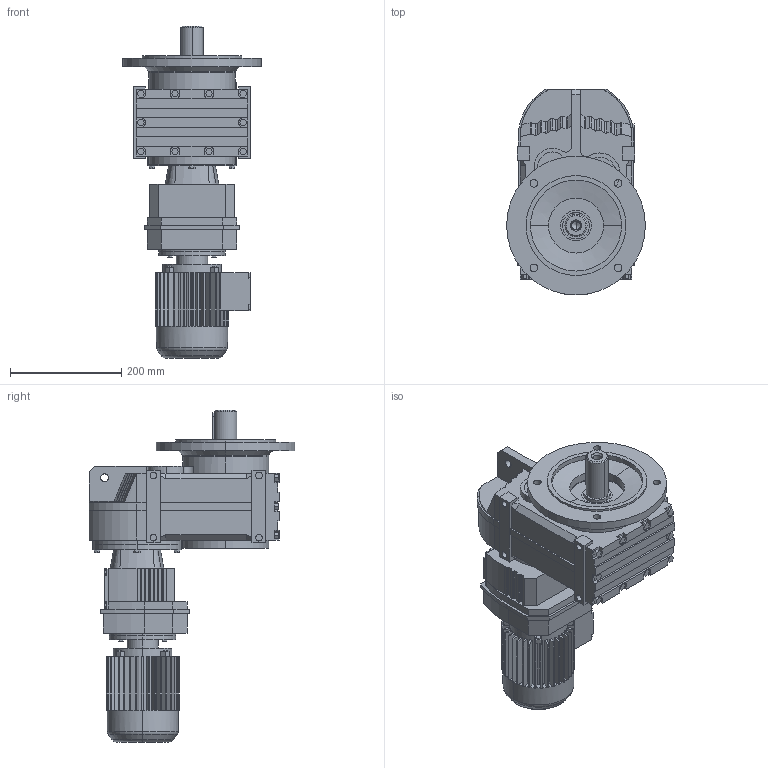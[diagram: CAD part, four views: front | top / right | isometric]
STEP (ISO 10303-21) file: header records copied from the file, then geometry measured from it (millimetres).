
FILE_DESCRIPTION(('Open CASCADE Model'),'2;1');
FILE_NAME('Open CASCADE Shape Model','2021-07-24T11:11:49',('Author'),( 'Open CASCADE'),'Open CASCADE STEP processor 6.3','Open CASCADE 6.3' ,'Unknown');
FILE_SCHEMA(('AUTOMOTIVE_DESIGN_CC2 { 1 2 10303 214 -1 1 5 4 }'));
Length unit declared in the file: millimetre
Products named in the file (6): 1_FF67R37DR63; FAZ27‵157_67.step; 萇儂_120-DR63-191-246-132-105.step; R_67_37.step; す瑩妗陑粣F_67.step; 楊擘F_67.step
Assembly tree (5 placements, depth 2):
  1_FF67R37DR63
    FAZ27‵157_67.step
    萇儂_120-DR63-191-246-132-105.step
    R_67_37.step
    す瑩妗陑粣F_67.step
    楊擘F_67.step
Bounding box: 250 x 371 x 598 mm (x, y, z)
Volume: 14507148.4 mm3; surface area: 857038 mm2
Topology: 5 solids, 5 shells, 1040 faces, 2744 edges, 1792 vertices
Faces by surface type: plane 755, cylinder 245, cone 20, bspline 16, torus 4
Entity records: 69918 total; most frequent: CARTESIAN_POINT 16893, DIRECTION 9328, LINE 5501, VECTOR 5501, ORIENTED_EDGE 5484, PCURVE 5484, DEFINITIONAL_REPRESENTATION 5484, EDGE_CURVE 2742
